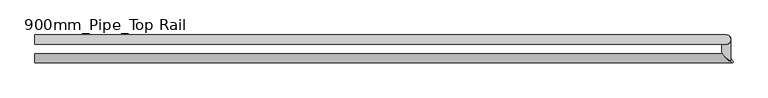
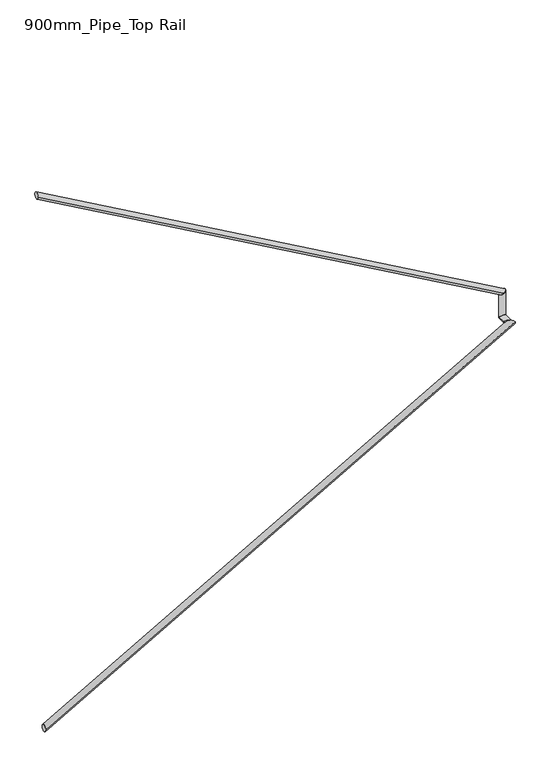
"""IFC4 building model written with IfcOpenShell, lengths in millimetres: railing geometry, 900mm_Pipe_Top Rail."""

from ifc_helpers import new_model, si_unit, frame, origin, place, context, project, spatial, ellipse_curve, source, transform, mapped, element, save
from ifc_brep_helpers import plane_surface, cylinder_surface, advanced_brep


def railing_900mm_pipe_top_rail_4cc62037(model_context):
    return source(origin(), model_context, "Body", "AdvancedBrep", [
        advanced_brep(
        [(-801.4958562, -3374.7473686, 12307.451671), (-801.4958562, -3334.7473686, 12307.451671), (2225.7734631, -3374.7473686, 14027.491057), (2190.9952008, -3334.7473686, 14007.7306807)],
        [
            (0, 1, ellipse_curve(frame((-801.4958562, -3354.7473686, 12307.451671), z_axis=(-1.0, 0.0, 0.0), x_axis=(0.0, 0.0, -1.0)), 23.0028744, 20.0)),
            (1, 0, ellipse_curve(frame((-801.4958562, -3354.7473686, 12307.451671), z_axis=(-1.0, 0.0, 0.0), x_axis=(0.0, 0.0, -1.0)), 23.0028744, 20.0)),
            (2, 3, ellipse_curve(frame((2208.3843319, -3354.7473686, 14017.6108689), z_axis=(0.6147986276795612, 0.7071067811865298, 0.34931740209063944), x_axis=(-0.6147986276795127, 0.7071067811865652, -0.34931740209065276)), 28.2842712, 20.0)),
            (3, 2, ellipse_curve(frame((2208.3843319, -3354.7473686, 14017.6108689), z_axis=(0.6147986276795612, 0.7071067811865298, 0.34931740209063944), x_axis=(-0.6147986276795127, 0.7071067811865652, -0.34931740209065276)), 28.2842712, 20.0)),
            (0, 2),
            (3, 1),
        ],
        [
            plane_surface(frame((-801.4958562, -3354.7473686, 12330.4545455), z_axis=(-1.0, 0.0, 0.0), x_axis=(0.0, 1.0, 0.0))),
            plane_surface(frame((2198.5041438, -3354.7473686, 14035.0), z_axis=(0.6147986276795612, 0.7071067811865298, 0.34931740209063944), x_axis=(0.7886841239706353, -0.5512070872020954, -0.27230148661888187))),
            cylinder_surface(frame((-791.6156681, -3354.7473686, 12313.0654143), z_axis=(-0.8694565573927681, 0.0, -0.4940094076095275), x_axis=(0.0, 1.0, 0.0)), 20.0),
        ],
        [
            (0, [[1, 2]]),
            (1, [[3, 4]]),
            (2, [[-1, 5, -4, 6]]),
            (2, [[-2, -6, -3, -5]]),
        ],
    ),
        advanced_brep(
        [(2218.9041438, -3362.2563116, 14015.0), (2178.9041438, -3327.4780493, 14015.0), (2218.9041438, -3274.4316761, 14015.0), (2178.9041438, -3274.4316761, 14015.0)],
        [
            (0, 1, ellipse_curve(frame((2198.9041438, -3344.8671804, 14015.0), z_axis=(-0.6147986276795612, -0.7071067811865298, -0.34931740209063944), x_axis=(0.6147986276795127, -0.7071067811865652, 0.34931740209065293)), 28.2842712, 20.0)),
            (1, 0, ellipse_curve(frame((2198.9041438, -3344.8671804, 14015.0), z_axis=(-0.6147986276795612, -0.7071067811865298, -0.34931740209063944), x_axis=(0.6147986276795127, -0.7071067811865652, 0.34931740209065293)), 28.2842712, 20.0)),
            (2, 3, ellipse_curve(frame((2198.9041438, -3274.4316761, 14015.0), z_axis=(0.0, 0.7071067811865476, 0.7071067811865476), x_axis=(0.0, -0.7071067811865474, 0.7071067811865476)), 28.2842712, 20.0)),
            (3, 2, ellipse_curve(frame((2198.9041438, -3274.4316761, 14015.0), z_axis=(0.0, 0.7071067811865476, 0.7071067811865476), x_axis=(0.0, -0.7071067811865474, 0.7071067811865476)), 28.2842712, 20.0)),
            (0, 2),
            (3, 1),
        ],
        [
            plane_surface(frame((2198.9041438, -3354.7473686, 14035.0), z_axis=(-0.6147986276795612, -0.7071067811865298, -0.34931740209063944), x_axis=(0.7886841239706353, -0.5512070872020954, -0.27230148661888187))),
            plane_surface(frame((2198.9041438, -3294.4316761, 14035.0), z_axis=(0.0, 0.7071067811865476, 0.7071067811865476), x_axis=(1.0, 0.0, 0.0))),
            cylinder_surface(frame((2198.9041438, -3354.7473686, 14015.0), z_axis=(0.0, -1.0, 0.0), x_axis=(-1.0, 0.0, 0.0)), 20.0),
        ],
        [
            (0, [[1, 2]]),
            (1, [[3, 4]]),
            (2, [[-1, 5, -4, 6]]),
            (2, [[-2, -6, -3, -5]]),
        ],
    ),
        advanced_brep(
        [(2218.9041438, -3274.4316761, 14015.0), (2178.9041438, -3274.4316761, 14015.0), (2218.9041438, -3274.4316761, 14193.8636364), (2178.9041438, -3274.4316761, 14170.5851603)],
        [
            (0, 1, ellipse_curve(frame((2198.9041438, -3274.4316761, 14015.0), z_axis=(0.0, -0.7071067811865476, -0.7071067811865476), x_axis=(0.0, 0.7071067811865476, -0.7071067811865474)), 28.2842712, 20.0)),
            (1, 0, ellipse_curve(frame((2198.9041438, -3274.4316761, 14015.0), z_axis=(0.0, -0.7071067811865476, -0.7071067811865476), x_axis=(0.0, 0.7071067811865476, -0.7071067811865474)), 28.2842712, 20.0)),
            (2, 3, ellipse_curve(frame((2198.9041438, -3274.4316761, 14182.2243983), z_axis=(-0.5029863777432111, 0.0, 0.8642943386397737), x_axis=(-0.8642943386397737, 0.0, -0.502986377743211)), 23.140265, 20.0)),
            (3, 2, ellipse_curve(frame((2198.9041438, -3274.4316761, 14182.2243983), z_axis=(-0.5029863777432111, 0.0, 0.8642943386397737), x_axis=(-0.8642943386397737, 0.0, -0.502986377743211)), 23.140265, 20.0)),
            (0, 2),
            (3, 1),
        ],
        [
            plane_surface(frame((2198.9041438, -3274.4316761, 14015.0), z_axis=(0.0, -0.7071067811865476, -0.7071067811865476), x_axis=(1.0, 0.0, 0.0))),
            plane_surface(frame((2198.9041438, -3274.4316761, 14182.2243983), z_axis=(-0.5029863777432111, 0.0, 0.8642943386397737), x_axis=(0.8642943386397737, 0.0, 0.5029863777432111))),
            cylinder_surface(frame((2198.9041438, -3274.4316761, 14015.0), z_axis=(0.0, 0.0, -1.0), x_axis=(-1.0, 0.0, 0.0)), 20.0),
        ],
        [
            (0, [[1, 2]]),
            (1, [[3, 4]]),
            (2, [[-1, 5, -4, 6]]),
            (2, [[-2, -6, -3, -5]]),
        ],
    ),
        advanced_brep(
        [(2198.9041438, -3254.4316761, 14182.2243983), (2198.9041438, -3294.4316761, 14182.2243983), (-801.4958562, -3254.4316761, 15886.9971256), (-801.4958562, -3294.4316761, 15886.9971256)],
        [
            (0, 1, ellipse_curve(frame((2198.9041438, -3274.4316761, 14182.2243983), z_axis=(0.5029863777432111, 0.0, -0.8642943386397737), x_axis=(0.8642943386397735, 0.0, 0.5029863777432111)), 23.140265, 20.0)),
            (1, 0, ellipse_curve(frame((2198.9041438, -3274.4316761, 14182.2243983), z_axis=(0.5029863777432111, 0.0, -0.8642943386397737), x_axis=(0.8642943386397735, 0.0, 0.5029863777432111)), 23.140265, 20.0)),
            (2, 3, ellipse_curve(frame((-801.4958562, -3274.4316761, 15886.9971256), z_axis=(-1.0, 0.0, 0.0), x_axis=(0.0, 0.0, -1.0)), 23.0028744, 20.0)),
            (3, 2, ellipse_curve(frame((-801.4958562, -3274.4316761, 15886.9971256), z_axis=(-1.0, 0.0, 0.0), x_axis=(0.0, 0.0, -1.0)), 23.0028744, 20.0)),
            (0, 2),
            (3, 1),
        ],
        [
            plane_surface(frame((2218.9041438, -3274.4316761, 14193.8636364), z_axis=(0.5029863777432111, 0.0, -0.8642943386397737), x_axis=(0.8642943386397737, 0.0, 0.5029863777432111))),
            plane_surface(frame((-801.4958562, -3274.4316761, 15910.0), z_axis=(-1.0, 0.0, 0.0), x_axis=(0.0, -1.0, 0.0))),
            cylinder_surface(frame((2209.0239556, -3274.4316761, 14176.4745052), z_axis=(0.8694565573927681, 0.0, -0.4940094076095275), x_axis=(0.0, -1.0, 0.0)), 20.0),
        ],
        [
            (0, [[1, 2]]),
            (1, [[3, 4]]),
            (2, [[-1, 5, -4, 6]]),
            (2, [[-2, -6, -3, -5]]),
        ],
    ),
    ])


if __name__ == "__main__":
    model = new_model("IFC4")
    model_context = context("Model", 3, world=origin())
    ifc_project = project(units=[si_unit("LENGTHUNIT", "METRE", prefix="MILLI")], contexts=[model_context])
    site = spatial("IfcSite", under=ifc_project)
    building = spatial("IfcBuilding", under=site)
    placement = place(None, origin())
    railing_900mm_pipe_top_rail_shape = railing_900mm_pipe_top_rail_4cc62037(model_context)
    element("IfcRailing", 1, ObjectType="900mm_Pipe_Top Rail", at=placement, inside=building, context=model_context, shape_type="MappedRepresentation", body=[
        mapped(railing_900mm_pipe_top_rail_shape, transform((0.0, 0.0, 0.0), x_axis=(1.0, 0.0, 0.0), y_axis=(0.0, 1.0, 0.0), z_axis=(0.0, 0.0, 1.0))),
    ])
    save(model, "model.ifc")
